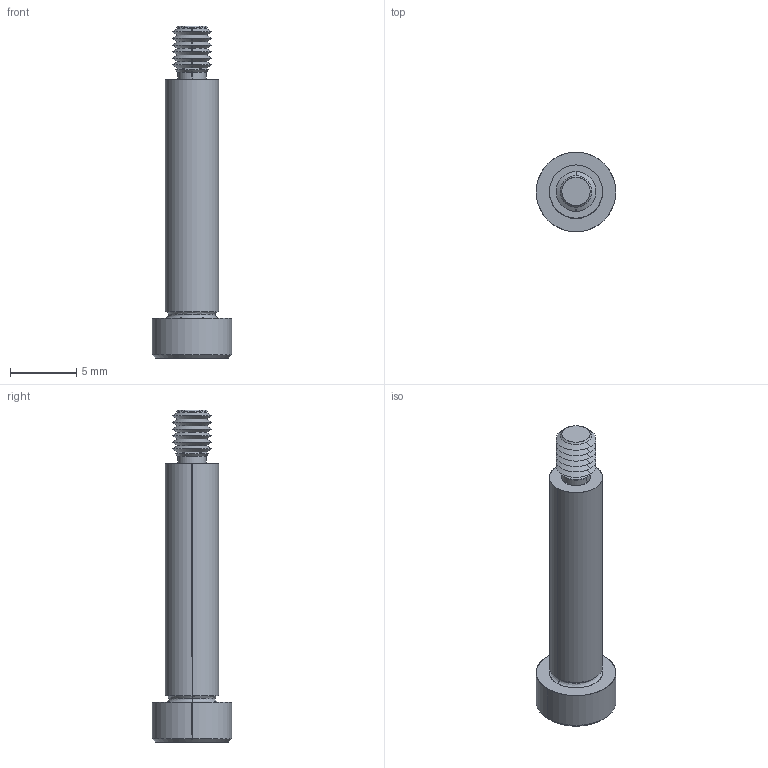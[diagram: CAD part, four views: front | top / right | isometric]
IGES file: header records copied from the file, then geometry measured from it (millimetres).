
Start section: SolidWorks IGES file using analytic representation for surfaces
Global section: file name: C:\Users\IanO\Documents\Temp Folder\GENERAL\SCREW REVISION\P0130_v2\P0130.T5_v2_20220106_IGES\P0130.040-018-T5.igs; native system: SolidWorks 2019; preprocessor: SolidWorks 2019; author: IanO; date: 220106.220829; units: millimetre
Bounding box: 6 x 6 x 25 mm (x, y, z)
Surface area: 411.1 mm2 (no closed solid volume)
Topology: 0 solids, 0 shells, 68 faces, 520 edges, 518 vertices
Faces by surface type: revolution 48, bspline 20
